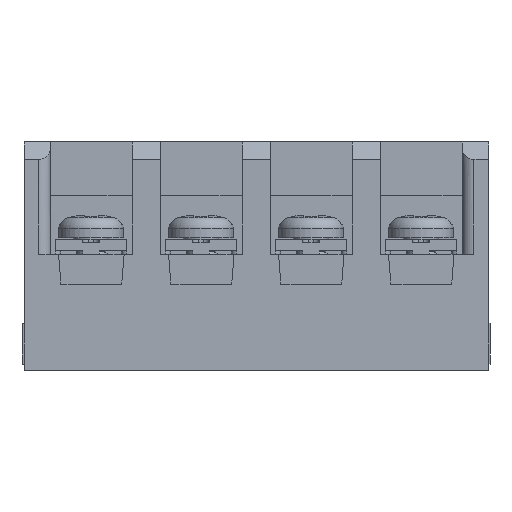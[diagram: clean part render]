
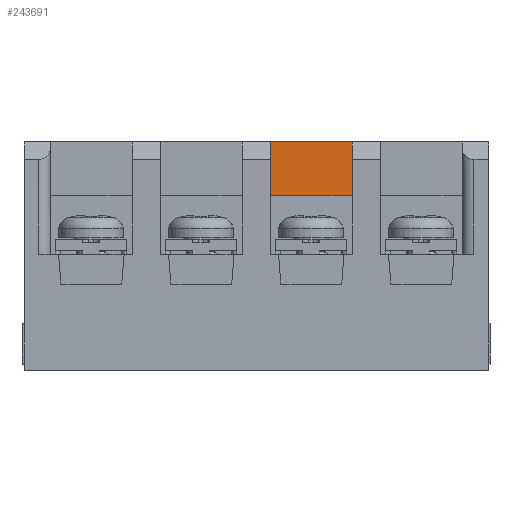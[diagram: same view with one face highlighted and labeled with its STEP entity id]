
A CAD part, left-side view. The second image highlights one B-rep face of the part: STEP entity #243691.
In plain terms, the highlighted planar face has unit normal (-1, 0, 0).
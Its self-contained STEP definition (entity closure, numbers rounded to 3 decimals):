
#220671 = PLANE('',#220672);
#220672 = AXIS2_PLACEMENT_3D('',#220673,#220674,#220675);
#220673 = CARTESIAN_POINT('',(11.4,39.7,19.5));
#220674 = DIRECTION('',(0.,0.,1.));
#220675 = DIRECTION('',(1.,0.,-0.));
#223495 = VERTEX_POINT('',#223496);
#223496 = CARTESIAN_POINT('',(2.3,18.65,19.5));
#223510 = PLANE('',#223511);
#223511 = AXIS2_PLACEMENT_3D('',#223512,#223513,#223514);
#223512 = CARTESIAN_POINT('',(11.35,18.65,0.));
#223513 = DIRECTION('',(0.,1.,0.));
#223514 = DIRECTION('',(0.,-0.,1.));
#223522 = EDGE_CURVE('',#223495,#223523,#223525,.T.);
#223523 = VERTEX_POINT('',#223524);
#223524 = CARTESIAN_POINT('',(2.3,11.65,19.5));
#223525 = SURFACE_CURVE('',#223526,(#223530,#223537),.PCURVE_S1.);
#223526 = LINE('',#223527,#223528);
#223527 = CARTESIAN_POINT('',(2.3,18.65,19.5));
#223528 = VECTOR('',#223529,1.);
#223529 = DIRECTION('',(-0.,-1.,0.));
#223530 = PCURVE('',#220671,#223531);
#223531 = DEFINITIONAL_REPRESENTATION('',(#223532),#223536);
#223532 = LINE('',#223533,#223534);
#223533 = CARTESIAN_POINT('',(-9.1,-21.05));
#223534 = VECTOR('',#223535,1.);
#223535 = DIRECTION('',(-0.,-1.));
#223536 = ( GEOMETRIC_REPRESENTATION_CONTEXT(2) 
PARAMETRIC_REPRESENTATION_CONTEXT() REPRESENTATION_CONTEXT('2D SPACE',''
  ) );
#223537 = PCURVE('',#223538,#223543);
#223538 = PLANE('',#223539);
#223539 = AXIS2_PLACEMENT_3D('',#223540,#223541,#223542);
#223540 = CARTESIAN_POINT('',(2.3,18.65,14.5));
#223541 = DIRECTION('',(1.,-0.,0.));
#223542 = DIRECTION('',(0.,1.,0.));
#223543 = DEFINITIONAL_REPRESENTATION('',(#223544),#223548);
#223544 = LINE('',#223545,#223546);
#223545 = CARTESIAN_POINT('',(0.,5.));
#223546 = VECTOR('',#223547,1.);
#223547 = DIRECTION('',(-1.,0.));
#223548 = ( GEOMETRIC_REPRESENTATION_CONTEXT(2) 
PARAMETRIC_REPRESENTATION_CONTEXT() REPRESENTATION_CONTEXT('2D SPACE',''
  ) );
#223566 = PLANE('',#223567);
#223567 = AXIS2_PLACEMENT_3D('',#223568,#223569,#223570);
#223568 = CARTESIAN_POINT('',(2.2,11.65,0.));
#223569 = DIRECTION('',(0.,-1.,0.));
#223570 = DIRECTION('',(0.,0.,-1.));
#235751 = VERTEX_POINT('',#235752);
#235752 = CARTESIAN_POINT('',(2.3,18.65,14.9));
#235766 = PLANE('',#235767);
#235767 = AXIS2_PLACEMENT_3D('',#235768,#235769,#235770);
#235768 = CARTESIAN_POINT('',(0.,39.7,14.9));
#235769 = DIRECTION('',(0.,0.,-1.));
#235770 = DIRECTION('',(-1.,0.,0.));
#235778 = EDGE_CURVE('',#235751,#223495,#235779,.T.);
#235779 = SURFACE_CURVE('',#235780,(#235784,#235791),.PCURVE_S1.);
#235780 = LINE('',#235781,#235782);
#235781 = CARTESIAN_POINT('',(2.3,18.65,14.5));
#235782 = VECTOR('',#235783,1.);
#235783 = DIRECTION('',(0.,0.,1.));
#235784 = PCURVE('',#223510,#235785);
#235785 = DEFINITIONAL_REPRESENTATION('',(#235786),#235790);
#235786 = LINE('',#235787,#235788);
#235787 = CARTESIAN_POINT('',(14.5,-9.05));
#235788 = VECTOR('',#235789,1.);
#235789 = DIRECTION('',(1.,0.));
#235790 = ( GEOMETRIC_REPRESENTATION_CONTEXT(2) 
PARAMETRIC_REPRESENTATION_CONTEXT() REPRESENTATION_CONTEXT('2D SPACE',''
  ) );
#235791 = PCURVE('',#223538,#235792);
#235792 = DEFINITIONAL_REPRESENTATION('',(#235793),#235797);
#235793 = LINE('',#235794,#235795);
#235794 = CARTESIAN_POINT('',(0.,0.));
#235795 = VECTOR('',#235796,1.);
#235796 = DIRECTION('',(0.,1.));
#235797 = ( GEOMETRIC_REPRESENTATION_CONTEXT(2) 
PARAMETRIC_REPRESENTATION_CONTEXT() REPRESENTATION_CONTEXT('2D SPACE',''
  ) );
#235855 = EDGE_CURVE('',#223523,#235856,#235858,.T.);
#235856 = VERTEX_POINT('',#235857);
#235857 = CARTESIAN_POINT('',(2.3,11.65,14.9));
#235858 = SURFACE_CURVE('',#235859,(#235863,#235870),.PCURVE_S1.);
#235859 = LINE('',#235860,#235861);
#235860 = CARTESIAN_POINT('',(2.3,11.65,19.5));
#235861 = VECTOR('',#235862,1.);
#235862 = DIRECTION('',(0.,0.,-1.));
#235863 = PCURVE('',#223566,#235864);
#235864 = DEFINITIONAL_REPRESENTATION('',(#235865),#235869);
#235865 = LINE('',#235866,#235867);
#235866 = CARTESIAN_POINT('',(-19.5,0.1));
#235867 = VECTOR('',#235868,1.);
#235868 = DIRECTION('',(1.,0.));
#235869 = ( GEOMETRIC_REPRESENTATION_CONTEXT(2) 
PARAMETRIC_REPRESENTATION_CONTEXT() REPRESENTATION_CONTEXT('2D SPACE',''
  ) );
#235870 = PCURVE('',#223538,#235871);
#235871 = DEFINITIONAL_REPRESENTATION('',(#235872),#235876);
#235872 = LINE('',#235873,#235874);
#235873 = CARTESIAN_POINT('',(-7.,5.));
#235874 = VECTOR('',#235875,1.);
#235875 = DIRECTION('',(0.,-1.));
#235876 = ( GEOMETRIC_REPRESENTATION_CONTEXT(2) 
PARAMETRIC_REPRESENTATION_CONTEXT() REPRESENTATION_CONTEXT('2D SPACE',''
  ) );
#243584 = EDGE_CURVE('',#235751,#235856,#243585,.T.);
#243585 = SURFACE_CURVE('',#243586,(#243590,#243597),.PCURVE_S1.);
#243586 = LINE('',#243587,#243588);
#243587 = CARTESIAN_POINT('',(2.3,39.7,14.9));
#243588 = VECTOR('',#243589,1.);
#243589 = DIRECTION('',(-0.,-1.,0.));
#243590 = PCURVE('',#235766,#243591);
#243591 = DEFINITIONAL_REPRESENTATION('',(#243592),#243596);
#243592 = LINE('',#243593,#243594);
#243593 = CARTESIAN_POINT('',(-2.3,0.));
#243594 = VECTOR('',#243595,1.);
#243595 = DIRECTION('',(0.,-1.));
#243596 = ( GEOMETRIC_REPRESENTATION_CONTEXT(2) 
PARAMETRIC_REPRESENTATION_CONTEXT() REPRESENTATION_CONTEXT('2D SPACE',''
  ) );
#243597 = PCURVE('',#223538,#243598);
#243598 = DEFINITIONAL_REPRESENTATION('',(#243599),#243603);
#243599 = LINE('',#243600,#243601);
#243600 = CARTESIAN_POINT('',(21.05,0.4));
#243601 = VECTOR('',#243602,1.);
#243602 = DIRECTION('',(-1.,0.));
#243603 = ( GEOMETRIC_REPRESENTATION_CONTEXT(2) 
PARAMETRIC_REPRESENTATION_CONTEXT() REPRESENTATION_CONTEXT('2D SPACE',''
  ) );
#243691 = ADVANCED_FACE('',(#243692),#223538,.F.);
#243692 = FACE_BOUND('',#243693,.T.);
#243693 = EDGE_LOOP('',(#243694,#243695,#243696,#243697));
#243694 = ORIENTED_EDGE('',*,*,#243584,.T.);
#243695 = ORIENTED_EDGE('',*,*,#235855,.F.);
#243696 = ORIENTED_EDGE('',*,*,#223522,.F.);
#243697 = ORIENTED_EDGE('',*,*,#235778,.F.);
